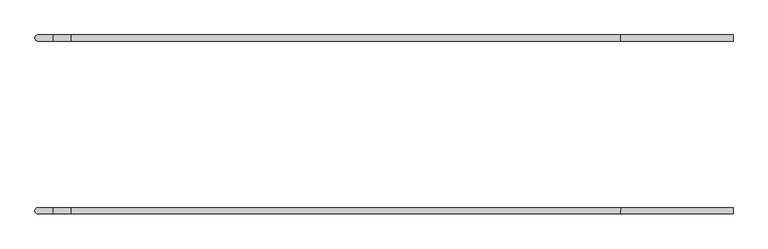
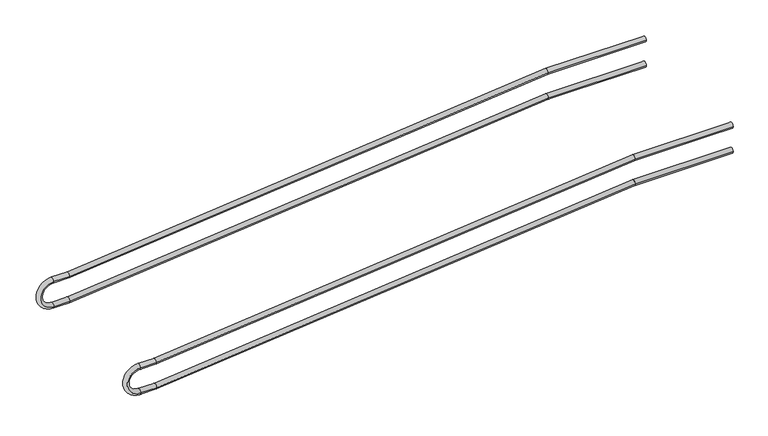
"""IFC4 building model written with IfcOpenShell, lengths in millimetres: proxy geometry, 常规模型 1 : 常规模型 1."""

from ifc_helpers import new_model, si_unit, point, frame, origin, place, context, project, spatial, circle_curve, ellipse_curve, trimmed, source, transform, mapped, element, save
from ifc_brep_helpers import plane_surface, cylinder_surface, revolved_surface, advanced_brep


def generic_models_bd655d27(model_context):
    return source(origin(), model_context, "Body", "AdvancedBrep", [
        advanced_brep(
        [(-161.7579315, 2868.5094486, 900.0), (-161.7579315, 2818.5094486, 900.0), (-1081.7579315, 2868.5094486, 900.0), (-1081.7579315, 2818.5094486, 900.0), (-5581.7579315, 2868.5094486, 450.0), (-5581.7579315, 2818.5094486, 450.0), (-5731.7579315, 2868.5094486, 450.0), (-5731.7579315, 2818.5094486, 450.0), (-5731.7579315, 2818.5094486, 200.0), (-5731.7579315, 2868.5094486, 200.0), (-5581.7579315, 2868.5094486, 200.0), (-5581.7579315, 2818.5094486, 200.0), (-1081.7579315, 2868.5094486, 650.0), (-1081.7579315, 2818.5094486, 650.0), (-161.7579315, 2868.5094486, 650.0), (-161.7579315, 2818.5094486, 650.0)],
        [
            (0, 1, circle_curve(frame((-161.7579315, 2843.5094486, 900.0), z_axis=(1.0, 0.0, 0.0), x_axis=(0.0, -1.0, 0.0)), 25.0)),
            (1, 0, circle_curve(frame((-161.7579315, 2843.5094486, 900.0), z_axis=(1.0, 0.0, 0.0), x_axis=(0.0, -1.0, 0.0)), 25.0)),
            (0, 2),
            (2, 3, ellipse_curve(frame((-1081.7579315, 2843.5094486, 900.0), z_axis=(0.9987585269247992, 0.0, 0.049813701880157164), x_axis=(0.04981370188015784, 0.0, -0.9987585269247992)), 25.0310754, 25.0)),
            (3, 1),
            (3, 2, ellipse_curve(frame((-1081.7579315, 2843.5094486, 900.0), z_axis=(0.9987585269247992, 0.0, 0.049813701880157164), x_axis=(0.04981370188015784, 0.0, -0.9987585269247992)), 25.0310754, 25.0)),
            (2, 4),
            (4, 5, ellipse_curve(frame((-5581.7579315, 2843.5094486, 450.0), z_axis=(0.9987585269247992, 0.0, 0.0498137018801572), x_axis=(-0.04981370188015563, 0.0, 0.9987585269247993)), 25.0310754, 25.0)),
            (5, 3),
            (5, 4, ellipse_curve(frame((-5581.7579315, 2843.5094486, 450.0), z_axis=(0.9987585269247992, 0.0, 0.0498137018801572), x_axis=(-0.04981370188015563, 0.0, 0.9987585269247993)), 25.0310754, 25.0)),
            (4, 6),
            (6, 7, circle_curve(frame((-5731.7579315, 2843.5094486, 450.0), z_axis=(1.0, 0.0, 0.0), x_axis=(0.0, -1.0, 0.0)), 25.0)),
            (7, 5),
            (7, 6, circle_curve(frame((-5731.7579315, 2843.5094486, 450.0), z_axis=(1.0, 0.0, 0.0), x_axis=(0.0, -1.0, 0.0)), 25.0)),
            (8, 7, circle_curve(frame((-5731.7579315, 2818.5094486, 325.0), z_axis=(0.0, 1.0, 0.0), x_axis=(0.0, 0.0, 1.0)), 125.0)),
            (6, 9, circle_curve(frame((-5731.7579315, 2868.5094486, 325.0), z_axis=(0.0, -1.0, 0.0), x_axis=(0.0, 0.0, 1.0)), 125.0)),
            (9, 8, circle_curve(frame((-5731.7579315, 2843.5094486, 200.0), z_axis=(-1.0, 0.0, 0.0), x_axis=(0.0, -1.0, 0.0)), 25.0)),
            (8, 9, circle_curve(frame((-5731.7579315, 2843.5094486, 200.0), z_axis=(-1.0, 0.0, 0.0), x_axis=(0.0, -1.0, 0.0)), 25.0)),
            (9, 10),
            (10, 11, ellipse_curve(frame((-5581.7579315, 2843.5094486, 200.0), z_axis=(-0.9987585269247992, 0.0, -0.0498137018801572), x_axis=(-0.04981370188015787, 0.0, 0.9987585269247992)), 25.0310754, 25.0)),
            (11, 8),
            (11, 10, ellipse_curve(frame((-5581.7579315, 2843.5094486, 200.0), z_axis=(-0.9987585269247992, 0.0, -0.0498137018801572), x_axis=(-0.04981370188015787, 0.0, 0.9987585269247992)), 25.0310754, 25.0)),
            (10, 12),
            (12, 13, ellipse_curve(frame((-1081.7579315, 2843.5094486, 650.0), z_axis=(-0.9987585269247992, 0.0, -0.049813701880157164), x_axis=(0.049813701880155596, 0.0, -0.9987585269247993)), 25.0310754, 25.0)),
            (13, 11),
            (13, 12, ellipse_curve(frame((-1081.7579315, 2843.5094486, 650.0), z_axis=(-0.9987585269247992, 0.0, -0.049813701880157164), x_axis=(0.049813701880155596, 0.0, -0.9987585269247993)), 25.0310754, 25.0)),
            (14, 15, circle_curve(frame((-161.7579315, 2843.5094486, 650.0), z_axis=(1.0, 0.0, 0.0), x_axis=(0.0, -1.0, 0.0)), 25.0)),
            (15, 14, circle_curve(frame((-161.7579315, 2843.5094486, 650.0), z_axis=(1.0, 0.0, 0.0), x_axis=(0.0, -1.0, 0.0)), 25.0)),
            (12, 14),
            (15, 13),
        ],
        [
            plane_surface(frame((-161.7579315, 2918.5094486, 900.0), z_axis=(1.0, 0.0, 0.0), x_axis=(0.0, -1.0, 0.0))),
            cylinder_surface(frame((-161.7579315, 2843.5094486, 900.0), z_axis=(1.0, 0.0, 0.0), x_axis=(0.0, -1.0, 0.0)), 25.0),
            cylinder_surface(frame((-1081.7579315, 2843.5094486, 900.0), z_axis=(0.9950371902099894, 0.0, 0.09950371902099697), x_axis=(0.0, -1.0, 0.0)), 25.0),
            cylinder_surface(frame((-5581.7579315, 2843.5094486, 450.0), z_axis=(1.0, 0.0, 0.0), x_axis=(0.0, -1.0, 0.0)), 25.0),
            revolved_surface(trimmed(ellipse_curve(frame((-5731.7579315, 2843.5094486, 450.0), z_axis=(1.0, 0.0, 0.0), x_axis=(0.0, -1.0, 0.0)), 25.0, 25.0), [point((-5731.7579315, 2868.5094486, 450.0))], [point((-5731.7579315, 2818.5094486, 450.0))], True, "CARTESIAN"), (-5731.7579315, 2918.5094486, 325.0), (0.0, -1.0, 0.0)),
            revolved_surface(trimmed(ellipse_curve(frame((-5731.7579315, 2843.5094486, 450.0), z_axis=(1.0, 0.0, 0.0), x_axis=(0.0, -1.0, 0.0)), 25.0, 25.0), [point((-5731.7579315, 2818.5094486, 450.0))], [point((-5731.7579315, 2868.5094486, 450.0))], True, "CARTESIAN"), (-5731.7579315, 2918.5094486, 325.0), (0.0, -1.0, 0.0)),
            cylinder_surface(frame((-5731.7579315, 2843.5094486, 200.0), z_axis=(-1.0, 0.0, 0.0), x_axis=(0.0, -1.0, 0.0)), 25.0),
            cylinder_surface(frame((-5581.7579315, 2843.5094486, 200.0), z_axis=(-0.9950371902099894, 0.0, -0.09950371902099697), x_axis=(0.0, -1.0, 0.0)), 25.0),
            plane_surface(frame((-161.7579315, 2918.5094486, 650.0), z_axis=(1.0, 0.0, 0.0), x_axis=(0.0, -1.0, 0.0))),
            cylinder_surface(frame((-1081.7579315, 2843.5094486, 650.0), z_axis=(-1.0, 0.0, 0.0), x_axis=(0.0, -1.0, 0.0)), 25.0),
        ],
        [
            (0, [[1, 2]]),
            (1, [[-1, 3, 4, 5]]),
            (1, [[-2, -5, 6, -3]]),
            (2, [[-4, 7, 8, 9]]),
            (2, [[-6, -9, 10, -7]]),
            (3, [[-8, 11, 12, 13]]),
            (3, [[-10, -13, 14, -11]]),
            (4, [[15, -12, 16, 17]]),
            (5, [[-16, -14, -15, 18]]),
            (6, [[-17, 19, 20, 21]]),
            (6, [[-18, -21, 22, -19]]),
            (7, [[-20, 23, 24, 25]]),
            (7, [[-22, -25, 26, -23]]),
            (8, [[27, 28]]),
            (9, [[-24, 29, -28, 30]]),
            (9, [[-26, -30, -27, -29]]),
        ],
    ),
        advanced_brep(
        [(-161.7579315, 4283.5094486, 900.0), (-161.7579315, 4233.5094486, 900.0), (-1081.7579315, 4283.5094486, 900.0), (-1081.7579315, 4233.5094486, 900.0), (-5581.7579315, 4283.5094486, 450.0), (-5581.7579315, 4233.5094486, 450.0), (-5731.7579315, 4283.5094486, 450.0), (-5731.7579315, 4233.5094486, 450.0), (-5731.7579315, 4233.5094486, 200.0), (-5731.7579315, 4283.5094486, 200.0), (-5581.7579315, 4283.5094486, 200.0), (-5581.7579315, 4233.5094486, 200.0), (-1081.7579315, 4283.5094486, 650.0), (-1081.7579315, 4233.5094486, 650.0), (-161.7579315, 4283.5094486, 650.0), (-161.7579315, 4233.5094486, 650.0)],
        [
            (0, 1, circle_curve(frame((-161.7579315, 4258.5094486, 900.0), z_axis=(1.0, 0.0, 0.0), x_axis=(0.0, -1.0, 0.0)), 25.0)),
            (1, 0, circle_curve(frame((-161.7579315, 4258.5094486, 900.0), z_axis=(1.0, 0.0, 0.0), x_axis=(0.0, -1.0, 0.0)), 25.0)),
            (0, 2),
            (2, 3, ellipse_curve(frame((-1081.7579315, 4258.5094486, 900.0), z_axis=(0.9987585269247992, 0.0, 0.049813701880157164), x_axis=(0.04981370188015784, 0.0, -0.9987585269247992)), 25.0310754, 25.0)),
            (3, 1),
            (3, 2, ellipse_curve(frame((-1081.7579315, 4258.5094486, 900.0), z_axis=(0.9987585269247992, 0.0, 0.049813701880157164), x_axis=(0.04981370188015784, 0.0, -0.9987585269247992)), 25.0310754, 25.0)),
            (2, 4),
            (4, 5, ellipse_curve(frame((-5581.7579315, 4258.5094486, 450.0), z_axis=(0.9987585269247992, 0.0, 0.0498137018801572), x_axis=(-0.04981370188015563, 0.0, 0.9987585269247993)), 25.0310754, 25.0)),
            (5, 3),
            (5, 4, ellipse_curve(frame((-5581.7579315, 4258.5094486, 450.0), z_axis=(0.9987585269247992, 0.0, 0.0498137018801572), x_axis=(-0.04981370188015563, 0.0, 0.9987585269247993)), 25.0310754, 25.0)),
            (4, 6),
            (6, 7, circle_curve(frame((-5731.7579315, 4258.5094486, 450.0), z_axis=(1.0, 0.0, 0.0), x_axis=(0.0, -1.0, 0.0)), 25.0)),
            (7, 5),
            (7, 6, circle_curve(frame((-5731.7579315, 4258.5094486, 450.0), z_axis=(1.0, 0.0, 0.0), x_axis=(0.0, -1.0, 0.0)), 25.0)),
            (8, 7, circle_curve(frame((-5731.7579315, 4233.5094486, 325.0), z_axis=(0.0, 1.0, 0.0), x_axis=(0.0, 0.0, 1.0)), 125.0)),
            (6, 9, circle_curve(frame((-5731.7579315, 4283.5094486, 325.0), z_axis=(0.0, -1.0, 0.0), x_axis=(0.0, 0.0, 1.0)), 125.0)),
            (9, 8, circle_curve(frame((-5731.7579315, 4258.5094486, 200.0), z_axis=(-1.0, 0.0, 0.0), x_axis=(0.0, -1.0, 0.0)), 25.0)),
            (8, 9, circle_curve(frame((-5731.7579315, 4258.5094486, 200.0), z_axis=(-1.0, 0.0, 0.0), x_axis=(0.0, -1.0, 0.0)), 25.0)),
            (9, 10),
            (10, 11, ellipse_curve(frame((-5581.7579315, 4258.5094486, 200.0), z_axis=(-0.9987585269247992, 0.0, -0.0498137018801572), x_axis=(-0.04981370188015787, 0.0, 0.9987585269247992)), 25.0310754, 25.0)),
            (11, 8),
            (11, 10, ellipse_curve(frame((-5581.7579315, 4258.5094486, 200.0), z_axis=(-0.9987585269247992, 0.0, -0.0498137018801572), x_axis=(-0.04981370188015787, 0.0, 0.9987585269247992)), 25.0310754, 25.0)),
            (10, 12),
            (12, 13, ellipse_curve(frame((-1081.7579315, 4258.5094486, 650.0), z_axis=(-0.9987585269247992, 0.0, -0.049813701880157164), x_axis=(0.049813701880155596, 0.0, -0.9987585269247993)), 25.0310754, 25.0)),
            (13, 11),
            (13, 12, ellipse_curve(frame((-1081.7579315, 4258.5094486, 650.0), z_axis=(-0.9987585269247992, 0.0, -0.049813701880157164), x_axis=(0.049813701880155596, 0.0, -0.9987585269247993)), 25.0310754, 25.0)),
            (14, 15, circle_curve(frame((-161.7579315, 4258.5094486, 650.0), z_axis=(1.0, 0.0, 0.0), x_axis=(0.0, -1.0, 0.0)), 25.0)),
            (15, 14, circle_curve(frame((-161.7579315, 4258.5094486, 650.0), z_axis=(1.0, 0.0, 0.0), x_axis=(0.0, -1.0, 0.0)), 25.0)),
            (12, 14),
            (15, 13),
        ],
        [
            plane_surface(frame((-161.7579315, 4333.5094486, 900.0), z_axis=(1.0, 0.0, 0.0), x_axis=(0.0, -1.0, 0.0))),
            cylinder_surface(frame((-161.7579315, 4258.5094486, 900.0), z_axis=(1.0, 0.0, 0.0), x_axis=(0.0, -1.0, 0.0)), 25.0),
            cylinder_surface(frame((-1081.7579315, 4258.5094486, 900.0), z_axis=(0.9950371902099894, 0.0, 0.09950371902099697), x_axis=(0.0, -1.0, 0.0)), 25.0),
            cylinder_surface(frame((-5581.7579315, 4258.5094486, 450.0), z_axis=(1.0, 0.0, 0.0), x_axis=(0.0, -1.0, 0.0)), 25.0),
            revolved_surface(trimmed(ellipse_curve(frame((-5731.7579315, 4258.5094486, 450.0), z_axis=(1.0, 0.0, 0.0), x_axis=(0.0, -1.0, 0.0)), 25.0, 25.0), [point((-5731.7579315, 4283.5094486, 450.0))], [point((-5731.7579315, 4233.5094486, 450.0))], True, "CARTESIAN"), (-5731.7579315, 4333.5094486, 325.0), (0.0, -1.0, 0.0)),
            revolved_surface(trimmed(ellipse_curve(frame((-5731.7579315, 4258.5094486, 450.0), z_axis=(1.0, 0.0, 0.0), x_axis=(0.0, -1.0, 0.0)), 25.0, 25.0), [point((-5731.7579315, 4233.5094486, 450.0))], [point((-5731.7579315, 4283.5094486, 450.0))], True, "CARTESIAN"), (-5731.7579315, 4333.5094486, 325.0), (0.0, -1.0, 0.0)),
            cylinder_surface(frame((-5731.7579315, 4258.5094486, 200.0), z_axis=(-1.0, 0.0, 0.0), x_axis=(0.0, -1.0, 0.0)), 25.0),
            cylinder_surface(frame((-5581.7579315, 4258.5094486, 200.0), z_axis=(-0.9950371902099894, 0.0, -0.09950371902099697), x_axis=(0.0, -1.0, 0.0)), 25.0),
            plane_surface(frame((-161.7579315, 4333.5094486, 650.0), z_axis=(1.0, 0.0, 0.0), x_axis=(0.0, -1.0, 0.0))),
            cylinder_surface(frame((-1081.7579315, 4258.5094486, 650.0), z_axis=(-1.0, 0.0, 0.0), x_axis=(0.0, -1.0, 0.0)), 25.0),
        ],
        [
            (0, [[1, 2]]),
            (1, [[-1, 3, 4, 5]]),
            (1, [[-2, -5, 6, -3]]),
            (2, [[-4, 7, 8, 9]]),
            (2, [[-6, -9, 10, -7]]),
            (3, [[-8, 11, 12, 13]]),
            (3, [[-10, -13, 14, -11]]),
            (4, [[15, -12, 16, 17]]),
            (5, [[-16, -14, -15, 18]]),
            (6, [[-17, 19, 20, 21]]),
            (6, [[-18, -21, 22, -19]]),
            (7, [[-20, 23, 24, 25]]),
            (7, [[-22, -25, 26, -23]]),
            (8, [[27, 28]]),
            (9, [[-24, 29, -28, 30]]),
            (9, [[-26, -30, -27, -29]]),
        ],
    ),
    ])


if __name__ == "__main__":
    model = new_model("IFC4")
    model_context = context("Model", 3, world=origin())
    ifc_project = project(units=[si_unit("LENGTHUNIT", "METRE", prefix="MILLI")], contexts=[model_context])
    site = spatial("IfcSite", under=ifc_project)
    building = spatial("IfcBuilding", under=site)
    placement = place(None, origin())
    generic_models_shape = generic_models_bd655d27(model_context)
    element("IfcBuildingElementProxy", 1, Name="常规模型 1 : 常规模型 1", ObjectType="常规模型 1 : 常规模型 1", at=placement, inside=building, context=model_context, shape_type="MappedRepresentation", body=[
        mapped(generic_models_shape, transform((0.0, 0.0, 0.0), x_axis=(1.0, 0.0, 0.0), y_axis=(0.0, 1.0, 0.0), z_axis=(0.0, 0.0, 1.0))),
    ])
    save(model, "model.ifc")
